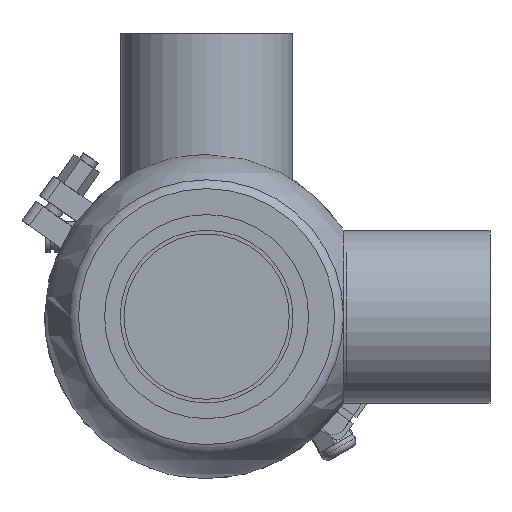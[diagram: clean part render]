
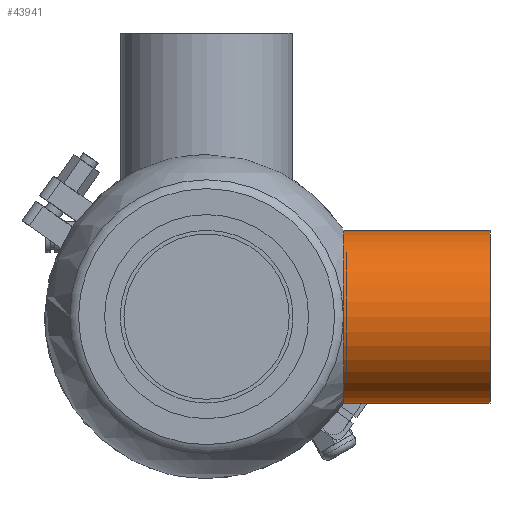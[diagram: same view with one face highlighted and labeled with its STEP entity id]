
A CAD part, front view. The second image highlights one B-rep face of the part: STEP entity #43941.
In plain terms, the highlighted cylindrical face has radius 38.1 mm (diameter 76.2 mm), a full revolution.
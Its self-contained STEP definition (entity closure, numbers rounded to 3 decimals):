
#1369 = DIRECTION ( 'NONE',  ( 0., 0., 1. ) ) ;
#2981 = ORIENTED_EDGE ( 'NONE', *, *, #13859, .T. ) ;
#6437 = ORIENTED_EDGE ( 'NONE', *, *, #55101, .T. ) ;
#6576 = DIRECTION ( 'NONE',  ( 1., 0., 0. ) ) ;
#9244 = FACE_OUTER_BOUND ( 'NONE', #34119, .T. ) ;
#12717 = DIRECTION ( 'NONE',  ( -1., 0., 0. ) ) ;
#13571 = CARTESIAN_POINT ( 'NONE',  ( 0., 0., 0. ) ) ;
#13859 = EDGE_CURVE ( 'NONE', #32223, #32223, #54098, .T. ) ;
#27885 = CARTESIAN_POINT ( 'NONE',  ( 60.503, 0., 38.1 ) ) ;
#29425 = CARTESIAN_POINT ( 'NONE',  ( 125., 0., 38.1 ) ) ;
#31632 = AXIS2_PLACEMENT_3D ( 'NONE', #55178, #12717, #50511 ) ;
#32223 = VERTEX_POINT ( 'NONE', #27885 ) ;
#32439 = DIRECTION ( 'NONE',  ( -1., 0., 0. ) ) ;
#33837 = EDGE_LOOP ( 'NONE', ( #2981 ) ) ;
#34119 = EDGE_LOOP ( 'NONE', ( #6437 ) ) ;
#34355 = VERTEX_POINT ( 'NONE', #29425 ) ;
#34572 = CIRCLE ( 'NONE', #31632, 38.1 ) ;
#39204 = AXIS2_PLACEMENT_3D ( 'NONE', #43101, #6576, #1369 ) ;
#41735 = FACE_OUTER_BOUND ( 'NONE', #33837, .T. ) ;
#43101 = CARTESIAN_POINT ( 'NONE',  ( 60.503, 0., 0. ) ) ;
#43941 = ADVANCED_FACE ( 'NONE', ( #41735, #9244 ), #60660, .T. ) ;
#45555 = AXIS2_PLACEMENT_3D ( 'NONE', #13571, #32439, #51371 ) ;
#50511 = DIRECTION ( 'NONE',  ( 0., 0., 1. ) ) ;
#51371 = DIRECTION ( 'NONE',  ( 0., 0., 1. ) ) ;
#54098 = CIRCLE ( 'NONE', #39204, 38.1 ) ;
#55101 = EDGE_CURVE ( 'NONE', #34355, #34355, #34572, .T. ) ;
#55178 = CARTESIAN_POINT ( 'NONE',  ( 125., 0., 0. ) ) ;
#60660 = CYLINDRICAL_SURFACE ( 'NONE', #45555, 38.1 ) ;
